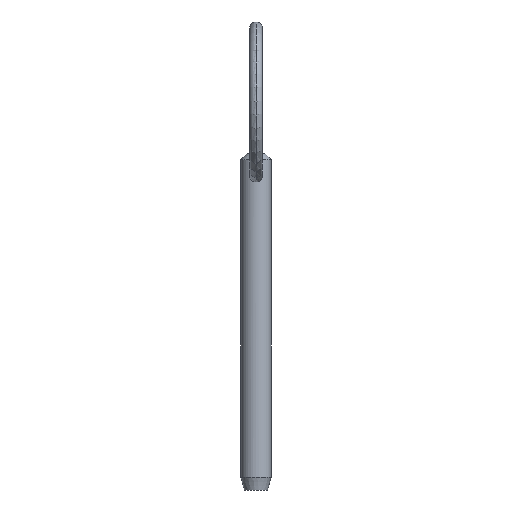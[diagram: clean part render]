
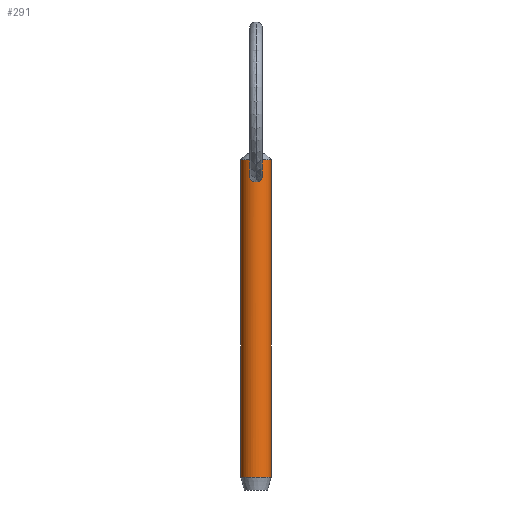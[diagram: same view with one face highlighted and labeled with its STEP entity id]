
A CAD part, front view. The second image highlights one B-rep face of the part: STEP entity #291.
In plain terms, the highlighted cylindrical face has radius 2.38 mm (diameter 4.76 mm), a partial arc.
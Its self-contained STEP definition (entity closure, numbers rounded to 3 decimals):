
#4 = EDGE_CURVE ( 'NONE', #173, #347, #165, .T. ) ;
#16 = EDGE_CURVE ( 'NONE', #173, #445, #259, .T. ) ;
#18 = CARTESIAN_POINT ( 'NONE',  ( 0., 0., 46.94 ) ) ;
#31 = CARTESIAN_POINT ( 'NONE',  ( 0.793, -2.246, 45.052 ) ) ;
#51 = CARTESIAN_POINT ( 'NONE',  ( -0.982, -2.169, 44.165 ) ) ;
#52 = CARTESIAN_POINT ( 'NONE',  ( -0.514, -2.327, 43.549 ) ) ;
#55 = ORIENTED_EDGE ( 'NONE', *, *, #4, .T. ) ;
#60 = DIRECTION ( 'NONE',  ( 1., 0., 0. ) ) ;
#61 = ORIENTED_EDGE ( 'NONE', *, *, #190, .T. ) ;
#66 = CARTESIAN_POINT ( 'NONE',  ( 0., -2.38, 43.425 ) ) ;
#68 = CARTESIAN_POINT ( 'NONE',  ( 1.003, -2.158, 44.299 ) ) ;
#72 = CARTESIAN_POINT ( 'NONE',  ( 0., -2.38, 43.425 ) ) ;
#79 = DIRECTION ( 'NONE',  ( 0., 0., -1. ) ) ;
#86 = CYLINDRICAL_SURFACE ( 'NONE', #154, 2.38 ) ;
#89 = B_SPLINE_CURVE_WITH_KNOTS ( 'NONE', 3,
 ( #125, #234, #128, #52, #373, #304, #201, #51, #95, #238, #164, #171, #338, #233, #96, #374 ),
 .UNSPECIFIED., .F., .F.,
 ( 4, 2, 2, 2, 2, 2, 2, 4 ),
 ( 0.006, 0.006, 0.007, 0.007, 0.007, 0.008, 0.009, 0.009 ),
 .UNSPECIFIED. ) ;
#91 = EDGE_LOOP ( 'NONE', ( #459, #200 ) ) ;
#95 = CARTESIAN_POINT ( 'NONE',  ( -1.004, -2.158, 44.299 ) ) ;
#96 = CARTESIAN_POINT ( 'NONE',  ( -0.134, -2.38, 45.468 ) ) ;
#102 = VERTEX_POINT ( 'NONE', #66 ) ;
#103 = DIRECTION ( 'NONE',  ( 0., 0., -1. ) ) ;
#109 = ORIENTED_EDGE ( 'NONE', *, *, #16, .F. ) ;
#113 = CARTESIAN_POINT ( 'NONE',  ( 0., -2.38, 45.468 ) ) ;
#117 = CARTESIAN_POINT ( 'NONE',  ( 0., 0., 43.2 ) ) ;
#120 = CARTESIAN_POINT ( 'NONE',  ( 2.38, 0., 46.94 ) ) ;
#125 = CARTESIAN_POINT ( 'NONE',  ( 0., -2.38, 43.425 ) ) ;
#128 = CARTESIAN_POINT ( 'NONE',  ( -0.268, -2.368, 43.451 ) ) ;
#129 = AXIS2_PLACEMENT_3D ( 'NONE', #262, #152, #435 ) ;
#141 = EDGE_CURVE ( 'NONE', #167, #102, #441, .T. ) ;
#146 = CARTESIAN_POINT ( 'NONE',  ( 0.865, -2.218, 44.94 ) ) ;
#152 = DIRECTION ( 'NONE',  ( 0., 0., 1. ) ) ;
#154 = AXIS2_PLACEMENT_3D ( 'NONE', #117, #79, #362 ) ;
#156 = CARTESIAN_POINT ( 'NONE',  ( 0.268, -2.368, 43.451 ) ) ;
#158 = CARTESIAN_POINT ( 'NONE',  ( -2.38, 0., 46.94 ) ) ;
#162 = EDGE_CURVE ( 'NONE', #347, #381, #188, .T. ) ;
#164 = CARTESIAN_POINT ( 'NONE',  ( -0.88, -2.219, 44.96 ) ) ;
#165 = CIRCLE ( 'NONE', #388, 2.38 ) ;
#167 = VERTEX_POINT ( 'NONE', #287 ) ;
#171 = CARTESIAN_POINT ( 'NONE',  ( -0.613, -2.302, 45.246 ) ) ;
#173 = VERTEX_POINT ( 'NONE', #120 ) ;
#181 = CARTESIAN_POINT ( 'NONE',  ( 0.811, -2.24, 43.806 ) ) ;
#184 = CARTESIAN_POINT ( 'NONE',  ( 0.134, -2.38, 45.468 ) ) ;
#188 = LINE ( 'NONE', #357, #389 ) ;
#190 = EDGE_CURVE ( 'NONE', #381, #445, #194, .T. ) ;
#193 = DIRECTION ( 'NONE',  ( 0., 0., -1. ) ) ;
#194 = CIRCLE ( 'NONE', #129, 2.38 ) ;
#200 = ORIENTED_EDGE ( 'NONE', *, *, #356, .T. ) ;
#201 = CARTESIAN_POINT ( 'NONE',  ( -0.885, -2.21, 43.917 ) ) ;
#206 = ORIENTED_EDGE ( 'NONE', *, *, #162, .T. ) ;
#208 = DIRECTION ( 'NONE',  ( 0., 0., -1. ) ) ;
#219 = CARTESIAN_POINT ( 'NONE',  ( 0.996, -2.162, 44.564 ) ) ;
#220 = CARTESIAN_POINT ( 'NONE',  ( 0.508, -2.328, 45.324 ) ) ;
#232 = FACE_BOUND ( 'NONE', #91, .T. ) ;
#233 = CARTESIAN_POINT ( 'NONE',  ( -0.267, -2.368, 45.437 ) ) ;
#234 = CARTESIAN_POINT ( 'NONE',  ( -0.133, -2.38, 43.425 ) ) ;
#238 = CARTESIAN_POINT ( 'NONE',  ( -0.991, -2.164, 44.701 ) ) ;
#258 = CARTESIAN_POINT ( 'NONE',  ( 0.133, -2.38, 43.425 ) ) ;
#259 = LINE ( 'NONE', #275, #266 ) ;
#262 = CARTESIAN_POINT ( 'NONE',  ( 0., 0., -3.08 ) ) ;
#266 = VECTOR ( 'NONE', #103, 1000. ) ;
#267 = CARTESIAN_POINT ( 'NONE',  ( 2.38, 0., -3.08 ) ) ;
#275 = CARTESIAN_POINT ( 'NONE',  ( 2.38, 0., 43.2 ) ) ;
#287 = CARTESIAN_POINT ( 'NONE',  ( 0., -2.38, 45.468 ) ) ;
#291 = ADVANCED_FACE ( 'NONE', ( #401, #232 ), #86, .T. ) ;
#302 = CARTESIAN_POINT ( 'NONE',  ( -2.38, 0., -3.08 ) ) ;
#304 = CARTESIAN_POINT ( 'NONE',  ( -0.811, -2.24, 43.806 ) ) ;
#314 = CARTESIAN_POINT ( 'NONE',  ( 0.268, -2.368, 45.437 ) ) ;
#316 = CARTESIAN_POINT ( 'NONE',  ( 0.981, -2.169, 44.164 ) ) ;
#325 = CARTESIAN_POINT ( 'NONE',  ( 0.625, -2.299, 43.621 ) ) ;
#338 = CARTESIAN_POINT ( 'NONE',  ( -0.505, -2.329, 45.326 ) ) ;
#347 = VERTEX_POINT ( 'NONE', #158 ) ;
#352 = CARTESIAN_POINT ( 'NONE',  ( 0.615, -2.301, 45.244 ) ) ;
#356 = EDGE_CURVE ( 'NONE', #102, #167, #89, .T. ) ;
#357 = CARTESIAN_POINT ( 'NONE',  ( -2.38, 0., 43.2 ) ) ;
#362 = DIRECTION ( 'NONE',  ( -1., 0., 0. ) ) ;
#370 = EDGE_LOOP ( 'NONE', ( #109, #55, #206, #61 ) ) ;
#373 = CARTESIAN_POINT ( 'NONE',  ( -0.626, -2.298, 43.622 ) ) ;
#374 = CARTESIAN_POINT ( 'NONE',  ( 0., -2.38, 45.468 ) ) ;
#381 = VERTEX_POINT ( 'NONE', #302 ) ;
#388 = AXIS2_PLACEMENT_3D ( 'NONE', #18, #208, #60 ) ;
#389 = VECTOR ( 'NONE', #193, 1000. ) ;
#397 = CARTESIAN_POINT ( 'NONE',  ( 0.513, -2.327, 43.548 ) ) ;
#401 = FACE_OUTER_BOUND ( 'NONE', #370, .T. ) ;
#422 = CARTESIAN_POINT ( 'NONE',  ( 0.966, -2.176, 44.697 ) ) ;
#435 = DIRECTION ( 'NONE',  ( -1., 0., 0. ) ) ;
#441 = B_SPLINE_CURVE_WITH_KNOTS ( 'NONE', 3,
 ( #113, #184, #314, #220, #352, #31, #146, #422, #219, #68, #316, #468, #181, #325, #397, #156, #258, #72 ),
 .UNSPECIFIED., .F., .F.,
 ( 4, 2, 2, 2, 2, 2, 2, 2, 4 ),
 ( 0.003, 0.003, 0.003, 0.004, 0.004, 0.005, 0.005, 0.005, 0.006 ),
 .UNSPECIFIED. ) ;
#445 = VERTEX_POINT ( 'NONE', #267 ) ;
#459 = ORIENTED_EDGE ( 'NONE', *, *, #141, .T. ) ;
#468 = CARTESIAN_POINT ( 'NONE',  ( 0.885, -2.21, 43.917 ) ) ;
